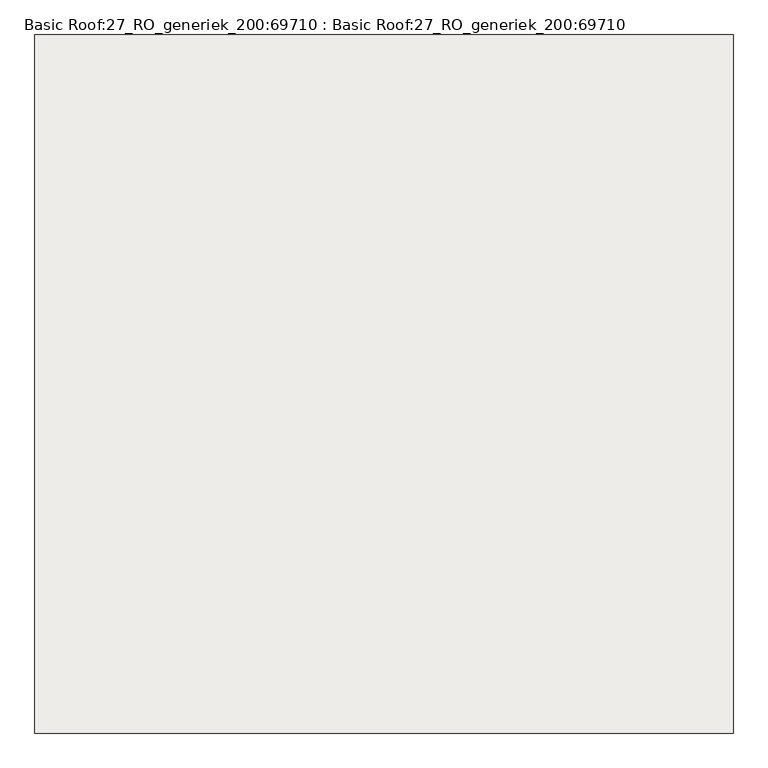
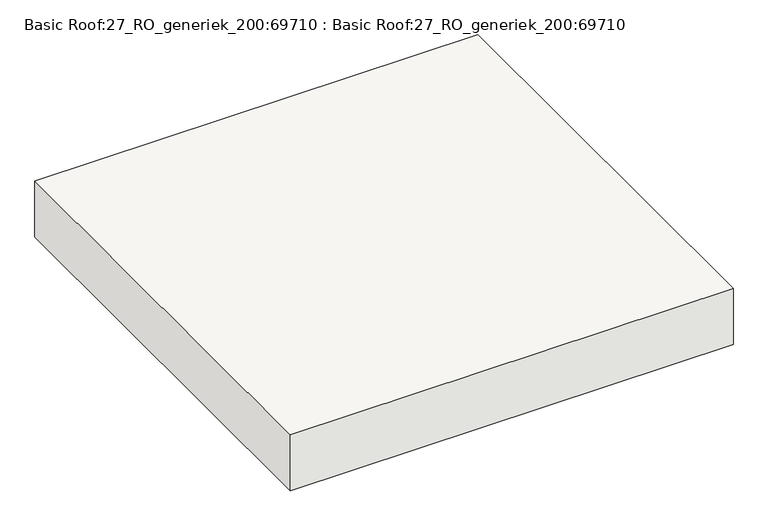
"""IFC4 building model written with IfcOpenShell, lengths in millimetres: roof geometry, Basic Roof:27_RO_generiek_200:69710 : Basic Roof:27_RO_generiek_200:69710."""

from ifc_helpers import new_model, si_unit, origin, origin_with_axes, place, context, project, spatial, polyline, outline, extrude, source, transform, mapped, element, save


def basic_roof_27_ro_generiek_200_69710_basic_roof_27_ro_0ecb0dcb(model_context):
    return source(origin(), model_context, "Body", "SweptSolid", [
        extrude(outline(polyline([(36193.347385, -3415.0), (34693.347385, -3415.0), (34693.347385, -1915.0), (36193.347385, -1915.0), (36193.347385, -3415.0)])), origin_with_axes(), (0.0, 0.0, 1.0), 200.0),
    ])


if __name__ == "__main__":
    model = new_model("IFC4")
    model_context = context("Model", 3, world=origin())
    ifc_project = project(units=[si_unit("LENGTHUNIT", "METRE", prefix="MILLI")], contexts=[model_context])
    site = spatial("IfcSite", under=ifc_project)
    building = spatial("IfcBuilding", under=site)
    placement = place(None, origin())
    basic_roof_27_ro_generiek_200_69710_basic_roof_27_ro_shape = basic_roof_27_ro_generiek_200_69710_basic_roof_27_ro_0ecb0dcb(model_context)
    element("IfcRoof", 1, ObjectType="Basic Roof:27_RO_generiek_200:69710 : Basic Roof:27_RO_generiek_200:69710", at=placement, inside=building, context=model_context, shape_type="MappedRepresentation", body=[
        mapped(basic_roof_27_ro_generiek_200_69710_basic_roof_27_ro_shape, transform((0.0, 0.0, 0.0), x_axis=(1.0, 0.0, 0.0), y_axis=(0.0, 1.0, 0.0), z_axis=(0.0, 0.0, 1.0))),
    ])
    save(model, "model.ifc")
